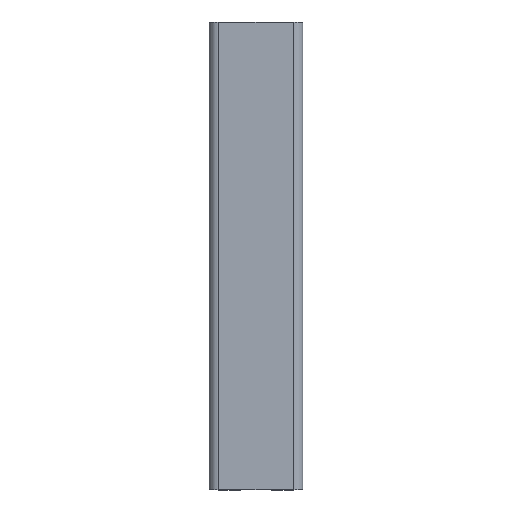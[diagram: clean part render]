
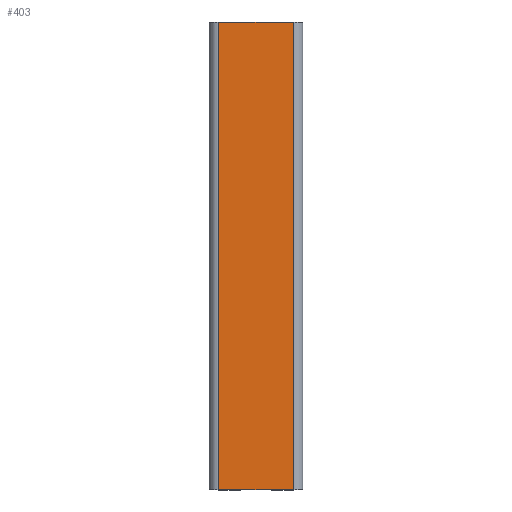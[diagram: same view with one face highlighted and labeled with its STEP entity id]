
A CAD part, top view. The second image highlights one B-rep face of the part: STEP entity #403.
In plain terms, the highlighted planar face has unit normal (0, 0, 1).
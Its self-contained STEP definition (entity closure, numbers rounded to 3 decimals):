
#14 = VERTEX_POINT ( 'NONE', #946 ) ;
#72 = CARTESIAN_POINT ( 'NONE',  ( -8., -50., 0. ) ) ;
#78 = DIRECTION ( 'NONE',  ( 0., -1., 0. ) ) ;
#129 = ORIENTED_EDGE ( 'NONE', *, *, #493, .T. ) ;
#145 = ORIENTED_EDGE ( 'NONE', *, *, #178, .F. ) ;
#168 = CARTESIAN_POINT ( 'NONE',  ( -8., 50., 0. ) ) ;
#178 = EDGE_CURVE ( 'NONE', #644, #14, #234, .T. ) ;
#201 = CARTESIAN_POINT ( 'NONE',  ( -8., -50., 0. ) ) ;
#234 = LINE ( 'NONE', #900, #656 ) ;
#240 = LINE ( 'NONE', #1062, #479 ) ;
#267 = DIRECTION ( 'NONE',  ( -1., 0., 0. ) ) ;
#362 = AXIS2_PLACEMENT_3D ( 'NONE', #1020, #847, #267 ) ;
#395 = VECTOR ( 'NONE', #908, 1000. ) ;
#403 = ADVANCED_FACE ( 'NONE', ( #777 ), #843, .F. ) ;
#414 = LINE ( 'NONE', #168, #395 ) ;
#417 = ORIENTED_EDGE ( 'NONE', *, *, #670, .T. ) ;
#455 = CARTESIAN_POINT ( 'NONE',  ( 8., 50., 0. ) ) ;
#458 = VERTEX_POINT ( 'NONE', #201 ) ;
#479 = VECTOR ( 'NONE', #749, 1000. ) ;
#493 = EDGE_CURVE ( 'NONE', #458, #14, #968, .T. ) ;
#558 = DIRECTION ( 'NONE',  ( 1., 0., 0. ) ) ;
#604 = VERTEX_POINT ( 'NONE', #951 ) ;
#644 = VERTEX_POINT ( 'NONE', #455 ) ;
#656 = VECTOR ( 'NONE', #78, 1000. ) ;
#670 = EDGE_CURVE ( 'NONE', #604, #458, #240, .T. ) ;
#708 = EDGE_CURVE ( 'NONE', #604, #644, #414, .T. ) ;
#726 = EDGE_LOOP ( 'NONE', ( #129, #145, #1037, #417 ) ) ;
#749 = DIRECTION ( 'NONE',  ( 0., -1., 0. ) ) ;
#776 = VECTOR ( 'NONE', #558, 1000. ) ;
#777 = FACE_OUTER_BOUND ( 'NONE', #726, .T. ) ;
#843 = PLANE ( 'NONE',  #362 ) ;
#847 = DIRECTION ( 'NONE',  ( 0., 0., -1. ) ) ;
#900 = CARTESIAN_POINT ( 'NONE',  ( 8., 50., 0. ) ) ;
#908 = DIRECTION ( 'NONE',  ( 1., 0., 0. ) ) ;
#946 = CARTESIAN_POINT ( 'NONE',  ( 8., -50., 0. ) ) ;
#951 = CARTESIAN_POINT ( 'NONE',  ( -8., 50., 0. ) ) ;
#968 = LINE ( 'NONE', #72, #776 ) ;
#1020 = CARTESIAN_POINT ( 'NONE',  ( -8., 50., 0. ) ) ;
#1037 = ORIENTED_EDGE ( 'NONE', *, *, #708, .F. ) ;
#1062 = CARTESIAN_POINT ( 'NONE',  ( -8., 50., 0. ) ) ;
